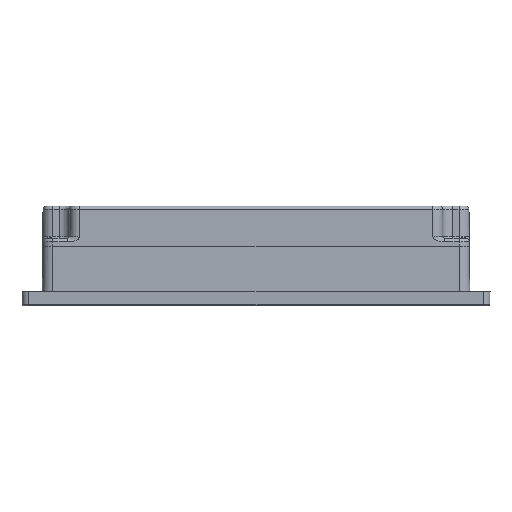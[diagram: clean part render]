
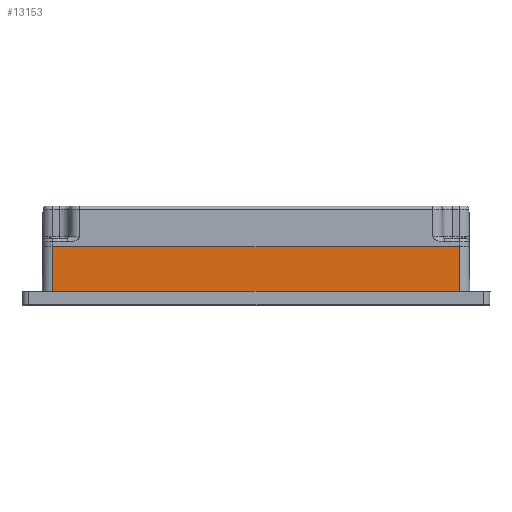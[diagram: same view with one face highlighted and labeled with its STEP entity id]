
A CAD part, front view. The second image highlights one B-rep face of the part: STEP entity #13153.
In plain terms, the highlighted planar face has unit normal (0, -1, 0.009).
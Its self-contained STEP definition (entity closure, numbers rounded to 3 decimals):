
#687=DIRECTION('',(-1.,0.,0.));
#688=VECTOR('',#687,123.7);
#689=CARTESIAN_POINT('',(61.85,-36.,2.5));
#690=LINE('',#689,#688);
#2231=DIRECTION('',(1.,0.,0.));
#2232=VECTOR('',#2231,123.438);
#2233=CARTESIAN_POINT('',(-61.719,-35.869,17.5));
#2234=LINE('',#2233,#2232);
#2444=CARTESIAN_POINT('',(-61.719,-35.869,17.5));
#2462=DIRECTION('',(0.009,0.009,1.));
#2463=VECTOR('',#2462,15.001);
#2464=CARTESIAN_POINT('',(-61.85,-36.,2.5));
#2465=LINE('',#2464,#2463);
#2466=DIRECTION('',(0.009,-0.009,-1.));
#2467=VECTOR('',#2466,15.001);
#2468=CARTESIAN_POINT('',(61.719,-35.869,17.5));
#2469=LINE('',#2468,#2467);
#2478=CARTESIAN_POINT('',(61.719,-35.869,17.5));
#8319=CARTESIAN_POINT('',(61.85,-36.,2.5));
#8320=CARTESIAN_POINT('',(-61.85,-36.,2.5));
#8321=VERTEX_POINT('',#8319);
#8322=VERTEX_POINT('',#8320);
#8649=VERTEX_POINT('',#2444);
#8652=VERTEX_POINT('',#2478);
#13141=CARTESIAN_POINT('',(68.041,-36.,2.5));
#13142=DIRECTION('',(0.,1.,-0.009));
#13143=DIRECTION('',(1.,0.,0.));
#13144=AXIS2_PLACEMENT_3D('',#13141,#13142,#13143);
#13145=PLANE('',#13144);
#13146=ORIENTED_EDGE('',*,*,#13134,.T.);
#13147=ORIENTED_EDGE('',*,*,#12619,.T.);
#13149=ORIENTED_EDGE('',*,*,#13148,.T.);
#13150=ORIENTED_EDGE('',*,*,#10531,.T.);
#13151=EDGE_LOOP('',(#13146,#13147,#13149,#13150));
#13152=FACE_OUTER_BOUND('',#13151,.F.);
#10531=EDGE_CURVE('',#8321,#8322,#690,.T.);
#12619=EDGE_CURVE('',#8649,#8652,#2234,.T.);
#13134=EDGE_CURVE('',#8322,#8649,#2465,.T.);
#13148=EDGE_CURVE('',#8652,#8321,#2469,.T.);
#13153=ADVANCED_FACE('',(#13152),#13145,.F.);
